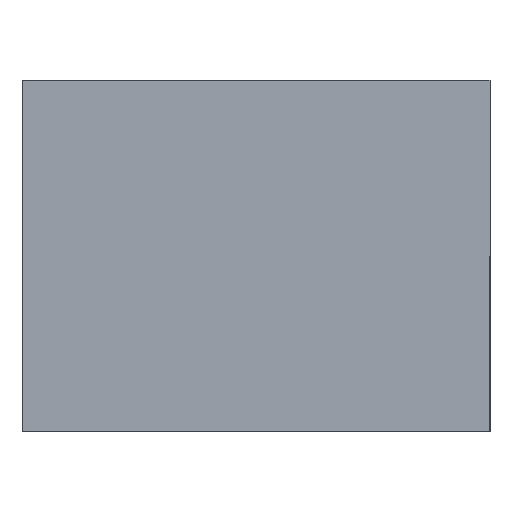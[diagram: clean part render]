
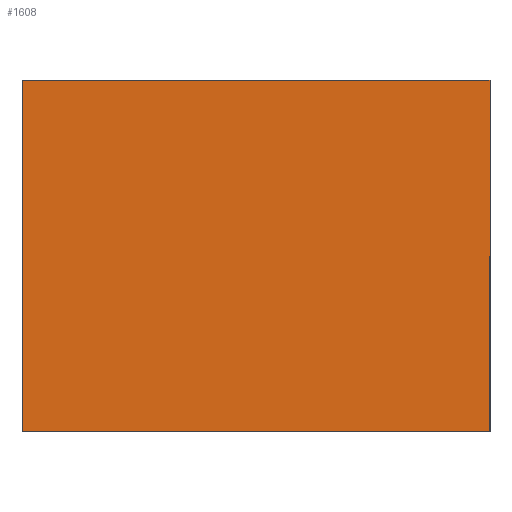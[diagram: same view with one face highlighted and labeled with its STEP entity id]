
A CAD part, front view. The second image highlights one B-rep face of the part: STEP entity #1608.
In plain terms, the highlighted planar face has unit normal (0, -1, 0).
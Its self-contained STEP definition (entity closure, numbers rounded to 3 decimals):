
#125 = CARTESIAN_POINT ( 'NONE',  ( -50., 0., -37.5 ) ) ;
#258 = EDGE_CURVE ( 'NONE', #1523, #1252, #408, .T. ) ;
#285 = DIRECTION ( 'NONE',  ( 0., 0., 1. ) ) ;
#408 = LINE ( 'NONE', #457, #472 ) ;
#453 = DIRECTION ( 'NONE',  ( -1., 0., 0. ) ) ;
#457 = CARTESIAN_POINT ( 'NONE',  ( -50., 0., -37.5 ) ) ;
#472 = VECTOR ( 'NONE', #453, 1000. ) ;
#503 = ORIENTED_EDGE ( 'NONE', *, *, #258, .F. ) ;
#504 = CARTESIAN_POINT ( 'NONE',  ( -50., 0., -37.5 ) ) ;
#720 = PLANE ( 'NONE',  #1262 ) ;
#735 = DIRECTION ( 'NONE',  ( 0., 0., -1. ) ) ;
#751 = FACE_OUTER_BOUND ( 'NONE', #1699, .T. ) ;
#852 = VERTEX_POINT ( 'NONE', #1392 ) ;
#874 = CARTESIAN_POINT ( 'NONE',  ( 0., 0., 0. ) ) ;
#906 = DIRECTION ( 'NONE',  ( 0., 0., 1. ) ) ;
#917 = DIRECTION ( 'NONE',  ( 0., 1., 0. ) ) ;
#1022 = CARTESIAN_POINT ( 'NONE',  ( 50., 0., -37.5 ) ) ;
#1029 = CARTESIAN_POINT ( 'NONE',  ( -50., 0., 37.5 ) ) ;
#1223 = VERTEX_POINT ( 'NONE', #1029 ) ;
#1252 = VERTEX_POINT ( 'NONE', #125 ) ;
#1262 = AXIS2_PLACEMENT_3D ( 'NONE', #874, #917, #906 ) ;
#1292 = LINE ( 'NONE', #1022, #2085 ) ;
#1324 = VECTOR ( 'NONE', #285, 1000. ) ;
#1347 = EDGE_CURVE ( 'NONE', #1252, #1223, #1358, .T. ) ;
#1358 = LINE ( 'NONE', #504, #1324 ) ;
#1392 = CARTESIAN_POINT ( 'NONE',  ( 50., 0., 37.5 ) ) ;
#1523 = VERTEX_POINT ( 'NONE', #1917 ) ;
#1575 = DIRECTION ( 'NONE',  ( 1., 0., 0. ) ) ;
#1587 = CARTESIAN_POINT ( 'NONE',  ( -50., 0., 37.5 ) ) ;
#1608 = ADVANCED_FACE ( 'NONE', ( #751 ), #720, .F. ) ;
#1699 = EDGE_LOOP ( 'NONE', ( #1860, #1792, #1947, #503 ) ) ;
#1792 = ORIENTED_EDGE ( 'NONE', *, *, #1935, .F. ) ;
#1860 = ORIENTED_EDGE ( 'NONE', *, *, #2492, .F. ) ;
#1870 = VECTOR ( 'NONE', #1575, 1000. ) ;
#1917 = CARTESIAN_POINT ( 'NONE',  ( 50., 0., -37.5 ) ) ;
#1930 = LINE ( 'NONE', #1587, #1870 ) ;
#1935 = EDGE_CURVE ( 'NONE', #1223, #852, #1930, .T. ) ;
#1947 = ORIENTED_EDGE ( 'NONE', *, *, #1347, .F. ) ;
#2085 = VECTOR ( 'NONE', #735, 1000. ) ;
#2492 = EDGE_CURVE ( 'NONE', #852, #1523, #1292, .T. ) ;
